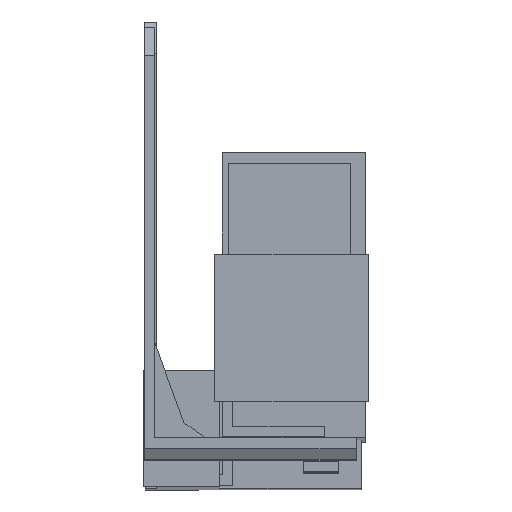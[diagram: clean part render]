
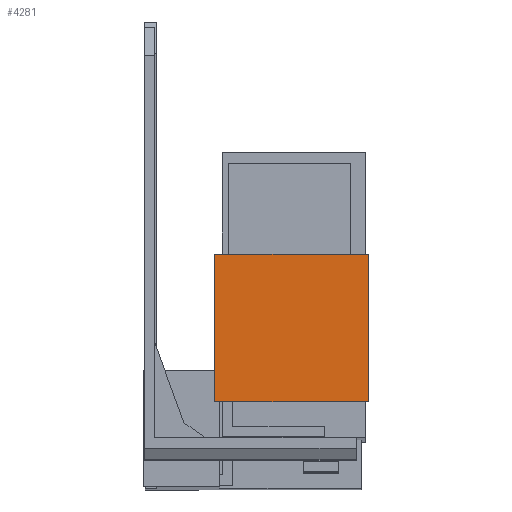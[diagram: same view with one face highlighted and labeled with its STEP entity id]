
A CAD part, front view. The second image highlights one B-rep face of the part: STEP entity #4281.
In plain terms, the highlighted planar face has unit normal (0, -1, 0.003).
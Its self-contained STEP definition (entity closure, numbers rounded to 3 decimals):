
#194 = AXIS2_PLACEMENT_3D ( 'NONE', #2356, #2362, #2363 ) ;
#314 = VECTOR ( 'NONE', #3901, 1000. ) ;
#325 = LINE ( 'NONE', #3897, #314 ) ;
#648 = VECTOR ( 'NONE', #3545, 1000. ) ;
#649 = LINE ( 'NONE', #3544, #648 ) ;
#947 = ORIENTED_EDGE ( 'NONE', *, *, #2092, .F. ) ;
#948 = ORIENTED_EDGE ( 'NONE', *, *, #1959, .F. ) ;
#949 = ORIENTED_EDGE ( 'NONE', *, *, #1902, .T. ) ;
#950 = ORIENTED_EDGE ( 'NONE', *, *, #2295, .F. ) ;
#1617 = VERTEX_POINT ( 'NONE', #2938 ) ;
#1618 = VERTEX_POINT ( 'NONE', #2939 ) ;
#1902 = EDGE_CURVE ( 'NONE', #1618, #1617, #4437, .T. ) ;
#1959 = EDGE_CURVE ( 'NONE', #1618, #4776, #4151, .T. ) ;
#2092 = EDGE_CURVE ( 'NONE', #4776, #4778, #649, .T. ) ;
#2295 = EDGE_CURVE ( 'NONE', #4778, #1617, #325, .T. ) ;
#2353 = PLANE ( 'NONE',  #194 ) ;
#2356 = CARTESIAN_POINT ( 'NONE',  ( 9.3, -29.009, -40.322 ) ) ;
#2362 = DIRECTION ( 'NONE',  ( 0., -1., 0.003 ) ) ;
#2363 = DIRECTION ( 'NONE',  ( -1., 0., 0. ) ) ;
#2820 = CARTESIAN_POINT ( 'NONE',  ( 10.05, -28.952, -19.322 ) ) ;
#2822 = CARTESIAN_POINT ( 'NONE',  ( 31.95, -28.952, -19.322 ) ) ;
#2938 = CARTESIAN_POINT ( 'NONE',  ( 31.95, -29.009, -40.322 ) ) ;
#2939 = CARTESIAN_POINT ( 'NONE',  ( 10.05, -29.009, -40.322 ) ) ;
#3026 = FACE_OUTER_BOUND ( 'NONE', #4661, .T. ) ;
#3144 = CARTESIAN_POINT ( 'NONE',  ( 9.3, -29.009, -40.322 ) ) ;
#3146 = DIRECTION ( 'NONE',  ( 1., 0., 0. ) ) ;
#3268 = CARTESIAN_POINT ( 'NONE',  ( 10.05, -29.009, -40.322 ) ) ;
#3269 = DIRECTION ( 'NONE',  ( 0., 0.003, 1. ) ) ;
#3544 = CARTESIAN_POINT ( 'NONE',  ( 9.3, -28.952, -19.322 ) ) ;
#3545 = DIRECTION ( 'NONE',  ( 1., 0., 0. ) ) ;
#3897 = CARTESIAN_POINT ( 'NONE',  ( 31.95, -28.952, -19.322 ) ) ;
#3901 = DIRECTION ( 'NONE',  ( 0., -0.003, -1. ) ) ;
#4150 = VECTOR ( 'NONE', #3269, 1000. ) ;
#4151 = LINE ( 'NONE', #3268, #4150 ) ;
#4281 = ADVANCED_FACE ( 'NONE', ( #3026 ), #2353, .T. ) ;
#4436 = VECTOR ( 'NONE', #3146, 1000. ) ;
#4437 = LINE ( 'NONE', #3144, #4436 ) ;
#4661 = EDGE_LOOP ( 'NONE', ( #947, #948, #949, #950 ) ) ;
#4776 = VERTEX_POINT ( 'NONE', #2820 ) ;
#4778 = VERTEX_POINT ( 'NONE', #2822 ) ;
